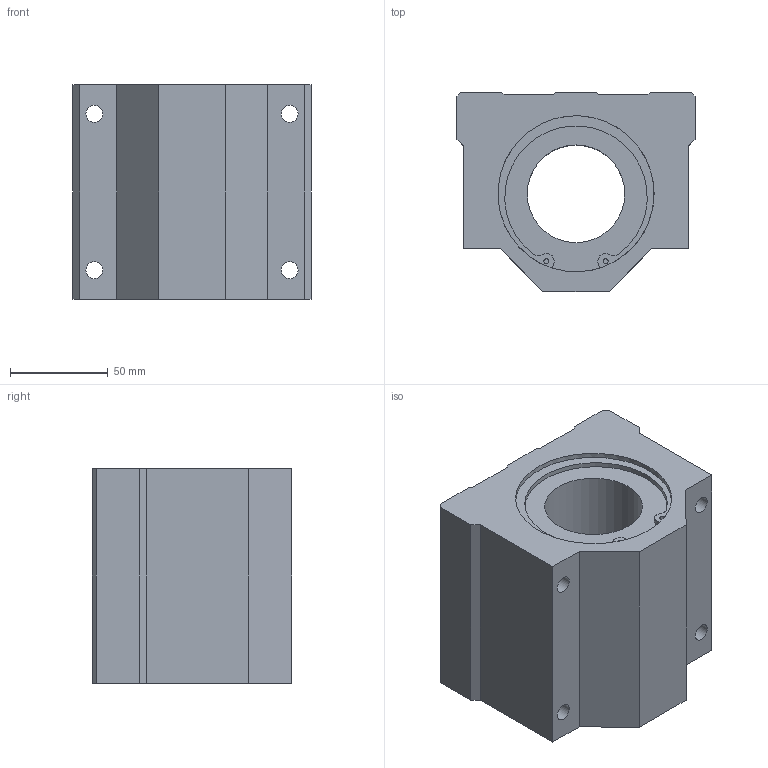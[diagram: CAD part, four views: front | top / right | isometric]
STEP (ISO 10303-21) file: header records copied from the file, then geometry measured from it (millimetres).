
FILE_DESCRIPTION(('STEP AP203'),'1');
FILE_NAME('//192.168.1.1/share/s-4 技術開発/s-4-4_CAD/s-4-4-3_見直し済み/008 修正済み/LC-A/LC-A_TOP/LC-50VAUU.step','2022-05-19T01:53:10',(' '),(' '),'Spatial InterOp 3D',' ',' ');
FILE_SCHEMA(('CONFIG_CONTROL_DESIGN'));
Length unit declared in the file: millimetre
Products named in the file (1): 1
Bounding box: 122 x 102 x 110 mm (x, y, z)
Volume: 897350.4 mm3; surface area: 89650 mm2
Topology: 1 solids, 1 shells, 65 faces, 171 edges, 114 vertices
Faces by surface type: plane 36, cylinder 29
Full cylindrical faces by diameter (mm): 2.5 x4, 8.7 x8, 50 x1, 80 x2
Entity records: 1956 total; most frequent: DIRECTION 338, CARTESIAN_POINT 324, ORIENTED_EDGE 300, EDGE_CURVE 150, AXIS2_PLACEMENT_3D 122, VERTEX_POINT 108, EDGE_LOOP 96, LINE 94
